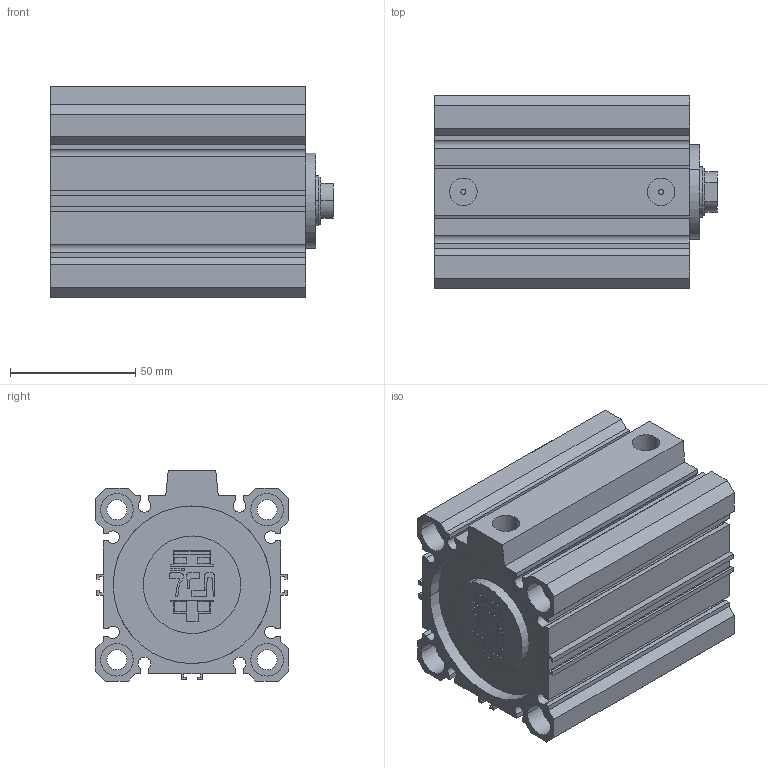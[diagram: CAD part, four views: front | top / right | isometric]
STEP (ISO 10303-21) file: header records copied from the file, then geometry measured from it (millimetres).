
FILE_DESCRIPTION(('CATIA V5 STEP Exchange'),'2;1');
FILE_NAME('D:\PDA\PDA-STP\PDA 63-20\PDA 63-20-60.stp','2016-02-02T10:57:59+00:00',('none'),('none'),'Version 5-6 Release 2012','CATIA V5 STEP AP203','none');
FILE_SCHEMA(('CONFIG_CONTROL_DESIGN'));
Length unit declared in the file: millimetre
Products named in the file (1): PDA 63-20-60-00
Assembly tree (2 placements, depth 2):
  PDA 63-20-60-00
    #58
    #7662
Bounding box: 113 x 77 x 84 mm (x, y, z)
Volume: 311736.3 mm3; surface area: 111587 mm2
Topology: 2 solids, 2 shells, 284 faces, 748 edges, 500 vertices
Faces by surface type: plane 200, cylinder 80, cone 2, torus 2
Entity records: 8182 total; most frequent: ORIENTED_EDGE 1496, CARTESIAN_POINT 1461, DIRECTION 1106, EDGE_CURVE 748, VECTOR 574, LINE 574, VERTEX_POINT 500, AXIS2_PLACEMENT_3D 351
